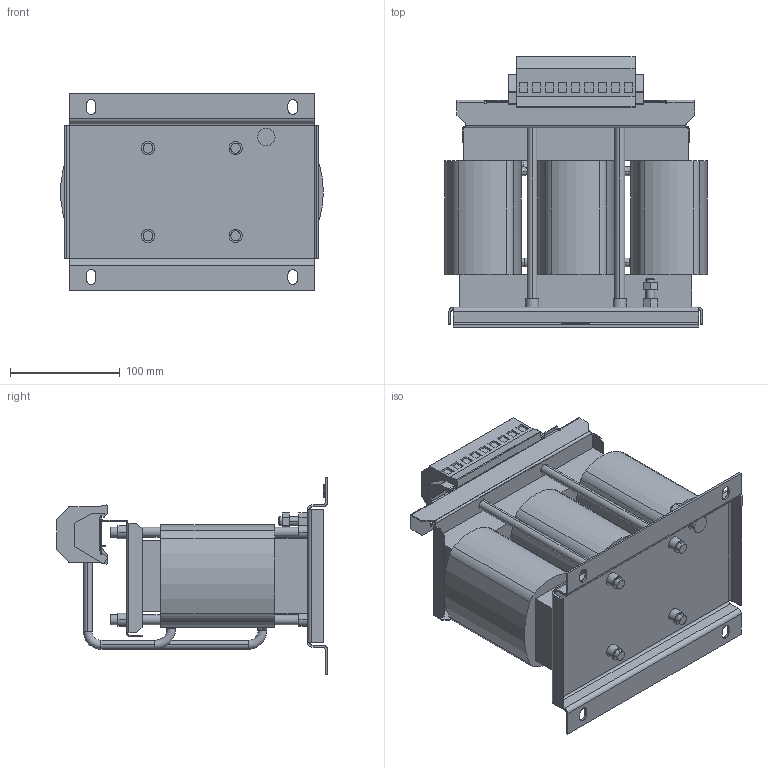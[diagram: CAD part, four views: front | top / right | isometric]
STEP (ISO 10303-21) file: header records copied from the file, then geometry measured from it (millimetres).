
FILE_DESCRIPTION (( 'STEP AP214' ), '1' );
FILE_NAME ('00Z20X0-0017.STEP', '2024-03-11T11:28:02', ( '' ), ( '' ), 'SwSTEP 2.0', 'SolidWorks 2022', '' );
FILE_SCHEMA (( 'AUTOMOTIVE_DESIGN' ));
Length unit declared in the file: millimetre
Products named in the file (1): 00Z20X0-0017
Bounding box: 239.71 x 246.9 x 180 mm (x, y, z)
Volume: 3037142.1 mm3; surface area: 357583.4 mm2
Topology: 1 solids, 1 shells, 572 faces, 1547 edges, 997 vertices
Faces by surface type: plane 315, cylinder 202, torus 38, bspline 15, cone 2
Entity records: 19768 total; most frequent: CARTESIAN_POINT 4960, ORIENTED_EDGE 3094, DIRECTION 3000, EDGE_CURVE 1547, AXIS2_PLACEMENT_3D 1046, VERTEX_POINT 997, VECTOR 908, LINE 908
